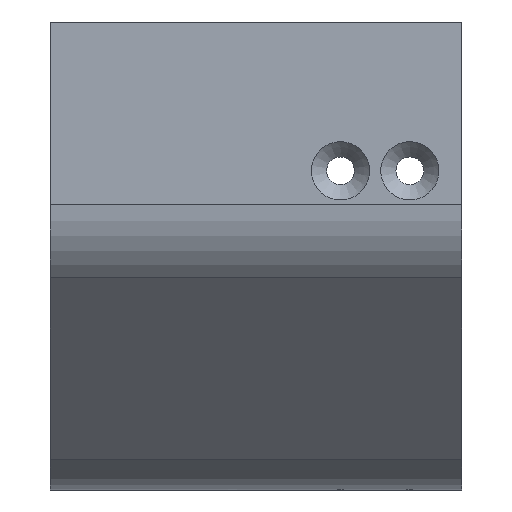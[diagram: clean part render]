
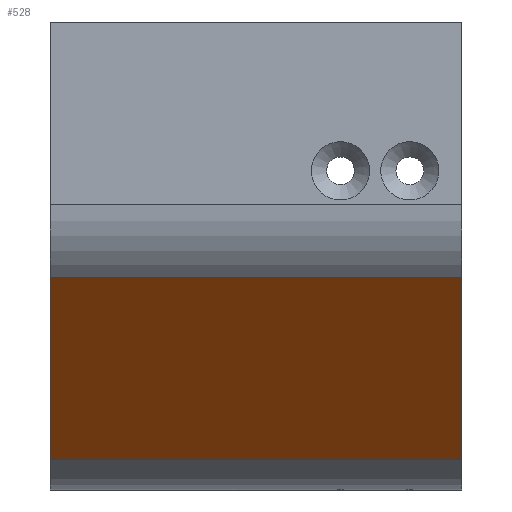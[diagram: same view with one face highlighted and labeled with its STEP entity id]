
A CAD part, front view. The second image highlights one B-rep face of the part: STEP entity #528.
In plain terms, the highlighted planar face has unit normal (0, -0.707, -0.707).
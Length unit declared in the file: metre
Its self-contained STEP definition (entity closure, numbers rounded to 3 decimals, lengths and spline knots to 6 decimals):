
#22=PLANE('',#581);
#112=ORIENTED_EDGE('',*,*,#238,.F.);
#113=ORIENTED_EDGE('',*,*,#239,.T.);
#114=ORIENTED_EDGE('',*,*,#204,.F.);
#115=ORIENTED_EDGE('',*,*,#224,.F.);
#204=EDGE_CURVE('',#274,#275,#324,.F.);
#224=EDGE_CURVE('',#291,#274,#339,.T.);
#238=EDGE_CURVE('',#299,#291,#348,.T.);
#239=EDGE_CURVE('',#299,#275,#349,.T.);
#274=VERTEX_POINT('',#789);
#275=VERTEX_POINT('',#791);
#291=VERTEX_POINT('',#833);
#299=VERTEX_POINT('',#859);
#324=LINE('',#790,#366);
#339=LINE('',#834,#381);
#348=LINE('',#860,#390);
#349=LINE('',#862,#391);
#366=VECTOR('',#627,1.);
#381=VECTOR('',#656,1.);
#390=VECTOR('',#683,1.);
#391=VECTOR('',#686,1.);
#414=EDGE_LOOP('',(#112,#113,#114,#115));
#466=FACE_BOUND('',#414,.T.);
#528=ADVANCED_FACE('',(#466),#22,.T.);
#581=AXIS2_PLACEMENT_3D('',#861,#684,#685);
#627=DIRECTION('',(1.,0.,0.));
#656=DIRECTION('',(0.,0.707,-0.707));
#683=DIRECTION('',(1.,0.,0.));
#684=DIRECTION('',(0.,-0.707,-0.707));
#685=DIRECTION('',(0.,0.707,-0.707));
#686=DIRECTION('',(0.,0.707,-0.707));
#789=CARTESIAN_POINT('',(-0.0155,-0.038515,-0.123485));
#790=CARTESIAN_POINT('',(-0.063,-0.038515,-0.123485));
#791=CARTESIAN_POINT('',(-0.063,-0.038515,-0.123485));
#833=CARTESIAN_POINT('',(-0.0155,-0.059485,-0.102515));
#834=CARTESIAN_POINT('',(-0.0155,-0.049,-0.113));
#859=CARTESIAN_POINT('',(-0.063,-0.059485,-0.102515));
#860=CARTESIAN_POINT('',(0.,-0.059485,-0.102515));
#861=CARTESIAN_POINT('',(-1.285713,-0.049,-0.113));
#862=CARTESIAN_POINT('',(-0.063,-0.049,-0.113));
